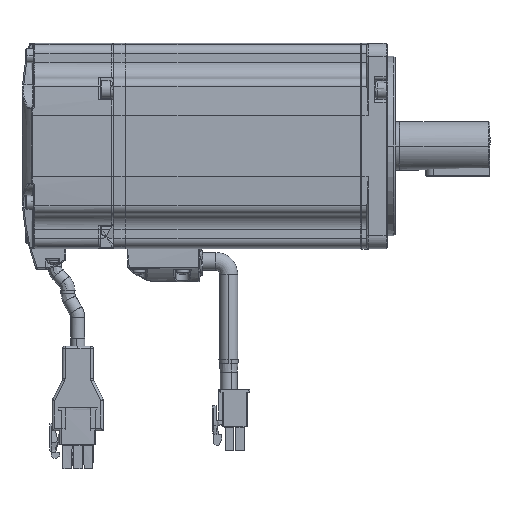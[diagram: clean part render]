
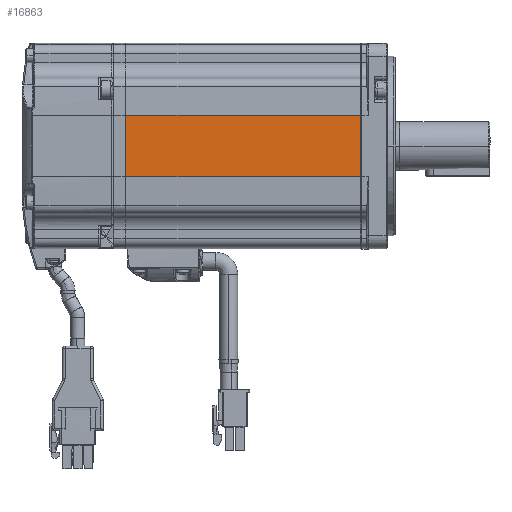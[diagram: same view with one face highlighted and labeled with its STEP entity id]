
A CAD part, front view. The second image highlights one B-rep face of the part: STEP entity #16863.
In plain terms, the highlighted planar face has unit normal (0, -1, 0).
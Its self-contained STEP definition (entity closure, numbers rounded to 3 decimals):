
#622 = CARTESIAN_POINT ( 'NONE',  ( 66.592, -34.901, 197.001 ) ) ;
#3597 = ORIENTED_EDGE ( 'NONE', *, *, #36173, .T. ) ;
#3657 = ORIENTED_EDGE ( 'NONE', *, *, #37525, .F. ) ;
#5582 = ORIENTED_EDGE ( 'NONE', *, *, #37828, .F. ) ;
#5688 = CARTESIAN_POINT ( 'NONE',  ( 5.592, -34.901, 197.001 ) ) ;
#6677 = ORIENTED_EDGE ( 'NONE', *, *, #32319, .F. ) ;
#7089 = CARTESIAN_POINT ( 'NONE',  ( -24.908, -34.901, 221.001 ) ) ;
#7113 = CARTESIAN_POINT ( 'NONE',  ( -24.908, -34.901, 213.001 ) ) ;
#7822 = CARTESIAN_POINT ( 'NONE',  ( 66.592, -34.901, 213.001 ) ) ;
#7827 = EDGE_LOOP ( 'NONE', ( #3597, #3657, #5582, #6677 ) ) ;
#8791 = CARTESIAN_POINT ( 'NONE',  ( 66.592, -34.901, 221.001 ) ) ;
#11937 = CARTESIAN_POINT ( 'NONE',  ( 66.592, -34.901, 221.001 ) ) ;
#12066 = CARTESIAN_POINT ( 'NONE',  ( -24.908, -34.901, 205.001 ) ) ;
#13705 = CARTESIAN_POINT ( 'NONE',  ( 66.592, -34.901, 197.001 ) ) ;
#15665 = VERTEX_POINT ( 'NONE', #18293 ) ;
#15897 = VERTEX_POINT ( 'NONE', #622 ) ;
#16333 = CARTESIAN_POINT ( 'NONE',  ( 66.592, -34.901, 221.001 ) ) ;
#16863 = ADVANCED_FACE ( 'NONE', ( #30964 ), #29374, .F. ) ;
#18293 = CARTESIAN_POINT ( 'NONE',  ( -24.908, -34.901, 197.001 ) ) ;
#19371 = VERTEX_POINT ( 'NONE', #8791 ) ;
#20355 = CARTESIAN_POINT ( 'NONE',  ( 66.592, -34.901, 205.001 ) ) ;
#21250 = VERTEX_POINT ( 'NONE', #7089 ) ;
#22906 = B_SPLINE_CURVE_WITH_KNOTS ( 'NONE', 3,
 ( #16333, #7822, #20355, #48020 ),
 .UNSPECIFIED., .F., .F.,
 ( 4, 4 ),
 ( 0., 1. ),
 .UNSPECIFIED. ) ;
#23293 = AXIS2_PLACEMENT_3D ( 'NONE', #28928, #28853, #28804 ) ;
#24410 = B_SPLINE_CURVE_WITH_KNOTS ( 'NONE', 3,
 ( #13705, #37505, #5688, #33787 ),
 .UNSPECIFIED., .F., .F.,
 ( 4, 4 ),
 ( 0., 1. ),
 .UNSPECIFIED. ) ;
#28804 = DIRECTION ( 'NONE',  ( 1., 0., 0. ) ) ;
#28853 = DIRECTION ( 'NONE',  ( 0., 1., 0. ) ) ;
#28928 = CARTESIAN_POINT ( 'NONE',  ( -57.408, -34.901, 209.001 ) ) ;
#29374 = PLANE ( 'NONE',  #23293 ) ;
#30964 = FACE_OUTER_BOUND ( 'NONE', #7827, .T. ) ;
#31148 = B_SPLINE_CURVE_WITH_KNOTS ( 'NONE', 3,
 ( #32052, #7113, #12066, #39810 ),
 .UNSPECIFIED., .F., .F.,
 ( 4, 4 ),
 ( 0., 1. ),
 .UNSPECIFIED. ) ;
#32052 = CARTESIAN_POINT ( 'NONE',  ( -24.908, -34.901, 221.001 ) ) ;
#32319 = EDGE_CURVE ( 'NONE', #21250, #19371, #51407, .T. ) ;
#33787 = CARTESIAN_POINT ( 'NONE',  ( -24.908, -34.901, 197.001 ) ) ;
#35814 = CARTESIAN_POINT ( 'NONE',  ( 36.092, -34.901, 221.001 ) ) ;
#36173 = EDGE_CURVE ( 'NONE', #21250, #15665, #31148, .T. ) ;
#37505 = CARTESIAN_POINT ( 'NONE',  ( 36.092, -34.901, 197.001 ) ) ;
#37525 = EDGE_CURVE ( 'NONE', #15897, #15665, #24410, .T. ) ;
#37828 = EDGE_CURVE ( 'NONE', #19371, #15897, #22906, .T. ) ;
#39810 = CARTESIAN_POINT ( 'NONE',  ( -24.908, -34.901, 197.001 ) ) ;
#43532 = CARTESIAN_POINT ( 'NONE',  ( -24.908, -34.901, 221.001 ) ) ;
#47558 = CARTESIAN_POINT ( 'NONE',  ( 5.592, -34.901, 221.001 ) ) ;
#48020 = CARTESIAN_POINT ( 'NONE',  ( 66.592, -34.901, 197.001 ) ) ;
#51407 = B_SPLINE_CURVE_WITH_KNOTS ( 'NONE', 3,
 ( #43532, #47558, #35814, #11937 ),
 .UNSPECIFIED., .F., .F.,
 ( 4, 4 ),
 ( 0., 1. ),
 .UNSPECIFIED. ) ;
